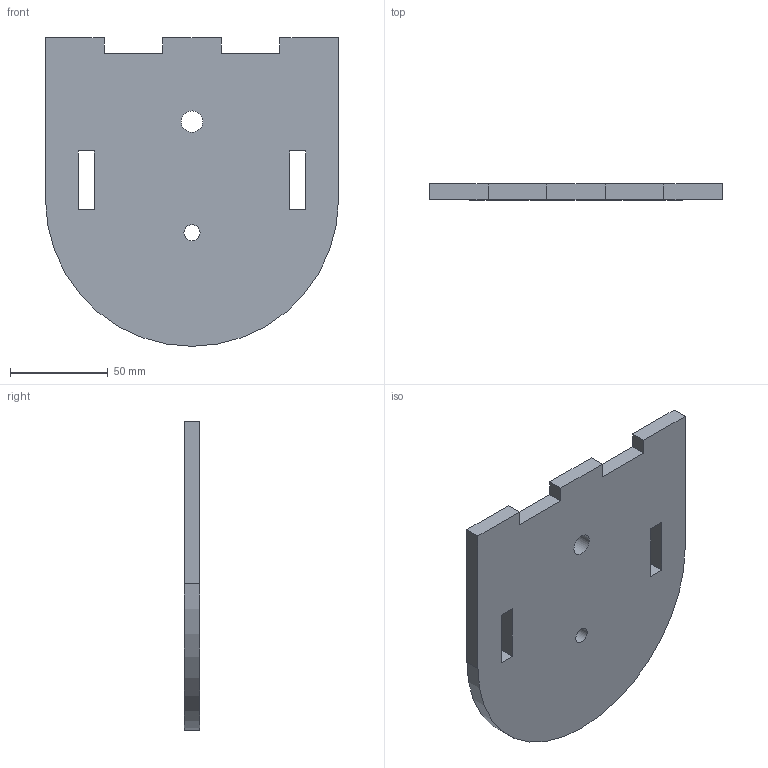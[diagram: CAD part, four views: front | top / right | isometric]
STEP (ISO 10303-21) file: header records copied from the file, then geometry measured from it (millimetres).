
FILE_DESCRIPTION(/* description */ (''),/* implementation_level */ '2;1');
FILE_NAME(/* name */ 'Holder_part_5a_ver_2.step',/* time_stamp */ '2026-07-24T14:34:29+02:00',/* author */ ('dariu'),/* organization */ (''),/* preprocessor_version */ 'ST-DEVELOPER v20.1',/* originating_system */ 'Autodesk Inventor 2026',/* authorisation */ '');
FILE_SCHEMA (('AUTOMOTIVE_DESIGN { 1 0 10303 214 3 1 1 }'));
Length unit declared in the file: millimetre
Products named in the file (1): Holder_part_5a_ver_2
Bounding box: 150 x 8 x 158 mm (x, y, z)
Volume: 161327.1 mm3; surface area: 46705.7 mm2
Topology: 1 solids, 1 shells, 24 faces, 66 edges, 44 vertices
Faces by surface type: plane 21, cylinder 3
Full cylindrical faces by diameter (mm): 8.2 x1, 11 x1
Entity records: 815 total; most frequent: CARTESIAN_POINT 135, ORIENTED_EDGE 132, DIRECTION 122, EDGE_CURVE 66, LINE 60, VECTOR 60, VERTEX_POINT 44, EDGE_LOOP 32
